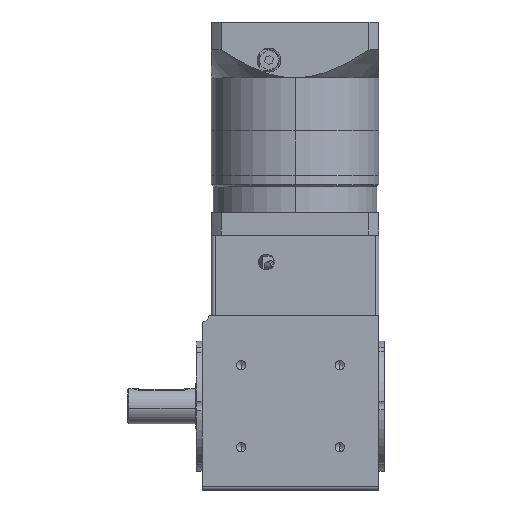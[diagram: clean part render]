
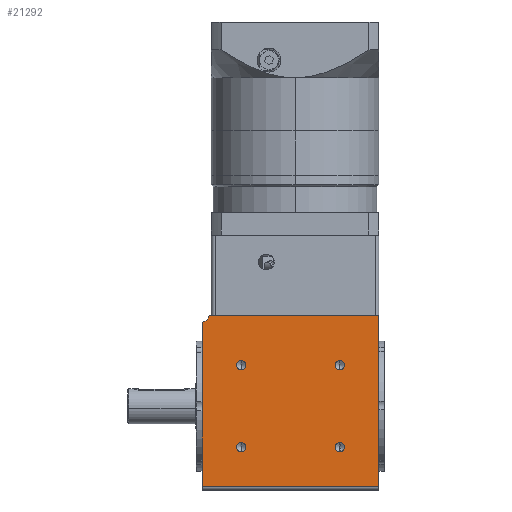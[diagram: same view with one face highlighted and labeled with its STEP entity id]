
A CAD part, front view. The second image highlights one B-rep face of the part: STEP entity #21292.
In plain terms, the highlighted planar face has unit normal (0, -1, 0).
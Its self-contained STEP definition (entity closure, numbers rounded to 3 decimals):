
#61 = DIRECTION ( 'NONE',  ( -1., 0., 0. ) ) ;
#575 = AXIS2_PLACEMENT_3D ( 'NONE', #32851, #3773, #18597 ) ;
#676 = EDGE_CURVE ( 'NONE', #976, #12260, #26913, .T. ) ;
#976 = VERTEX_POINT ( 'NONE', #26399 ) ;
#1504 = VERTEX_POINT ( 'NONE', #16917 ) ;
#1619 = PLANE ( 'NONE',  #26310 ) ;
#1771 = LINE ( 'NONE', #20975, #14430 ) ;
#2448 = EDGE_CURVE ( 'NONE', #19047, #27794, #8308, .T. ) ;
#2579 = CARTESIAN_POINT ( 'NONE',  ( 57.257, -60.486, 2. ) ) ;
#2626 = DIRECTION ( 'NONE',  ( 0., 0., 1. ) ) ;
#2868 = LINE ( 'NONE', #43273, #34642 ) ;
#3588 = AXIS2_PLACEMENT_3D ( 'NONE', #22269, #40814, #3878 ) ;
#3773 = DIRECTION ( 'NONE',  ( 0., -1., 0. ) ) ;
#3878 = DIRECTION ( 'NONE',  ( 0., 0., -1. ) ) ;
#4067 = FACE_BOUND ( 'NONE', #42248, .T. ) ;
#4576 = CARTESIAN_POINT ( 'NONE',  ( 36.257, -60.486, 25.5 ) ) ;
#4963 = CARTESIAN_POINT ( 'NONE',  ( 36.257, -60.486, 20.5 ) ) ;
#5456 = CARTESIAN_POINT ( 'NONE',  ( -37.743, -60.486, 94. ) ) ;
#5830 = VECTOR ( 'NONE', #61, 1000. ) ;
#6207 = EDGE_CURVE ( 'NONE', #29270, #44110, #1771, .T. ) ;
#6453 = VERTEX_POINT ( 'NONE', #23545 ) ;
#6981 = EDGE_LOOP ( 'NONE', ( #40696, #33236 ) ) ;
#7546 = FACE_OUTER_BOUND ( 'NONE', #27317, .T. ) ;
#8067 = DIRECTION ( 'NONE',  ( 0., 0., -1. ) ) ;
#8308 = CIRCLE ( 'NONE', #575, 2.5 ) ;
#8472 = EDGE_CURVE ( 'NONE', #1504, #25192, #17188, .T. ) ;
#8974 = VERTEX_POINT ( 'NONE', #9665 ) ;
#9044 = DIRECTION ( 'NONE',  ( 0., 0., 1. ) ) ;
#9418 = CIRCLE ( 'NONE', #12321, 2.5 ) ;
#9496 = CARTESIAN_POINT ( 'NONE',  ( 57.257, -60.486, 94. ) ) ;
#9497 = DIRECTION ( 'NONE',  ( 0., 1., 0. ) ) ;
#9665 = CARTESIAN_POINT ( 'NONE',  ( -37.743, -60.486, 2. ) ) ;
#9685 = DIRECTION ( 'NONE',  ( 1., 0., 0. ) ) ;
#11069 = ORIENTED_EDGE ( 'NONE', *, *, #14117, .F. ) ;
#11158 = VERTEX_POINT ( 'NONE', #2579 ) ;
#12200 = DIRECTION ( 'NONE',  ( 0., 0., -1. ) ) ;
#12260 = VERTEX_POINT ( 'NONE', #21375 ) ;
#12321 = AXIS2_PLACEMENT_3D ( 'NONE', #23047, #19156, #26605 ) ;
#13244 = DIRECTION ( 'NONE',  ( 0., -1., 0. ) ) ;
#13358 = DIRECTION ( 'NONE',  ( 0., 0., -1. ) ) ;
#13399 = CARTESIAN_POINT ( 'NONE',  ( -38.743, -60.486, 95. ) ) ;
#14010 = VECTOR ( 'NONE', #24155, 1000. ) ;
#14064 = LINE ( 'NONE', #46265, #14010 ) ;
#14117 = EDGE_CURVE ( 'NONE', #6453, #29270, #19651, .T. ) ;
#14201 = EDGE_CURVE ( 'NONE', #8974, #6453, #2868, .T. ) ;
#14430 = VECTOR ( 'NONE', #9685, 1000. ) ;
#14812 = CIRCLE ( 'NONE', #36050, 2.5 ) ;
#14896 = CARTESIAN_POINT ( 'NONE',  ( -37.743, -60.486, 2. ) ) ;
#15285 = CARTESIAN_POINT ( 'NONE',  ( 36.257, -60.486, 67. ) ) ;
#15371 = ORIENTED_EDGE ( 'NONE', *, *, #46244, .F. ) ;
#16917 = CARTESIAN_POINT ( 'NONE',  ( -16.743, -60.486, 20.5 ) ) ;
#17188 = CIRCLE ( 'NONE', #36056, 2.5 ) ;
#17669 = EDGE_LOOP ( 'NONE', ( #38867, #15371 ) ) ;
#18184 = AXIS2_PLACEMENT_3D ( 'NONE', #31817, #35504, #13358 ) ;
#18597 = DIRECTION ( 'NONE',  ( 0., 0., -1. ) ) ;
#18686 = EDGE_CURVE ( 'NONE', #11158, #8974, #27359, .T. ) ;
#18992 = EDGE_CURVE ( 'NONE', #28764, #31638, #46368, .T. ) ;
#19047 = VERTEX_POINT ( 'NONE', #47661 ) ;
#19156 = DIRECTION ( 'NONE',  ( 0., -1., 0. ) ) ;
#19640 = CARTESIAN_POINT ( 'NONE',  ( -16.743, -60.486, 67. ) ) ;
#19651 = CIRCLE ( 'NONE', #41490, 5. ) ;
#20331 = CIRCLE ( 'NONE', #18184, 2.5 ) ;
#20559 = ORIENTED_EDGE ( 'NONE', *, *, #44559, .F. ) ;
#20975 = CARTESIAN_POINT ( 'NONE',  ( -37.743, -60.486, 94. ) ) ;
#21292 = ADVANCED_FACE ( 'NONE', ( #7546, #41010, #44512, #24867, #4067 ), #1619, .F. ) ;
#21375 = CARTESIAN_POINT ( 'NONE',  ( 36.257, -60.486, 64.5 ) ) ;
#22141 = DIRECTION ( 'NONE',  ( 0., 0., -1. ) ) ;
#22269 = CARTESIAN_POINT ( 'NONE',  ( 36.257, -60.486, 67. ) ) ;
#23047 = CARTESIAN_POINT ( 'NONE',  ( -16.743, -60.486, 23. ) ) ;
#23462 = ORIENTED_EDGE ( 'NONE', *, *, #41432, .F. ) ;
#23545 = CARTESIAN_POINT ( 'NONE',  ( -37.743, -60.486, 90.101 ) ) ;
#23933 = AXIS2_PLACEMENT_3D ( 'NONE', #19640, #34673, #12200 ) ;
#24155 = DIRECTION ( 'NONE',  ( 0., 0., -1. ) ) ;
#24867 = FACE_BOUND ( 'NONE', #45981, .T. ) ;
#25047 = DIRECTION ( 'NONE',  ( 0., 0., -1. ) ) ;
#25192 = VERTEX_POINT ( 'NONE', #36005 ) ;
#25424 = ORIENTED_EDGE ( 'NONE', *, *, #14201, .F. ) ;
#26310 = AXIS2_PLACEMENT_3D ( 'NONE', #5456, #9497, #9044 ) ;
#26399 = CARTESIAN_POINT ( 'NONE',  ( 36.257, -60.486, 69.5 ) ) ;
#26605 = DIRECTION ( 'NONE',  ( 0., 0., -1. ) ) ;
#26913 = CIRCLE ( 'NONE', #3588, 2.5 ) ;
#27317 = EDGE_LOOP ( 'NONE', ( #31044, #20559, #38148, #11069, #25424 ) ) ;
#27359 = LINE ( 'NONE', #14896, #5830 ) ;
#27794 = VERTEX_POINT ( 'NONE', #40699 ) ;
#28764 = VERTEX_POINT ( 'NONE', #4963 ) ;
#29270 = VERTEX_POINT ( 'NONE', #45137 ) ;
#29287 = DIRECTION ( 'NONE',  ( 0., -1., 0. ) ) ;
#31044 = ORIENTED_EDGE ( 'NONE', *, *, #18686, .F. ) ;
#31638 = VERTEX_POINT ( 'NONE', #4576 ) ;
#31817 = CARTESIAN_POINT ( 'NONE',  ( 36.257, -60.486, 23. ) ) ;
#32851 = CARTESIAN_POINT ( 'NONE',  ( -16.743, -60.486, 67. ) ) ;
#33203 = ORIENTED_EDGE ( 'NONE', *, *, #676, .F. ) ;
#33236 = ORIENTED_EDGE ( 'NONE', *, *, #45704, .F. ) ;
#33899 = ORIENTED_EDGE ( 'NONE', *, *, #41368, .F. ) ;
#34642 = VECTOR ( 'NONE', #2626, 1000. ) ;
#34673 = DIRECTION ( 'NONE',  ( 0., -1., 0. ) ) ;
#35504 = DIRECTION ( 'NONE',  ( 0., -1., 0. ) ) ;
#36005 = CARTESIAN_POINT ( 'NONE',  ( -16.743, -60.486, 25.5 ) ) ;
#36050 = AXIS2_PLACEMENT_3D ( 'NONE', #15285, #41092, #8067 ) ;
#36056 = AXIS2_PLACEMENT_3D ( 'NONE', #36206, #29287, #22141 ) ;
#36182 = CIRCLE ( 'NONE', #23933, 2.5 ) ;
#36206 = CARTESIAN_POINT ( 'NONE',  ( -16.743, -60.486, 23. ) ) ;
#38148 = ORIENTED_EDGE ( 'NONE', *, *, #6207, .F. ) ;
#38210 = AXIS2_PLACEMENT_3D ( 'NONE', #47188, #43754, #25047 ) ;
#38867 = ORIENTED_EDGE ( 'NONE', *, *, #18992, .F. ) ;
#40696 = ORIENTED_EDGE ( 'NONE', *, *, #8472, .F. ) ;
#40699 = CARTESIAN_POINT ( 'NONE',  ( -16.743, -60.486, 64.5 ) ) ;
#40814 = DIRECTION ( 'NONE',  ( 0., -1., 0. ) ) ;
#41010 = FACE_BOUND ( 'NONE', #17669, .T. ) ;
#41092 = DIRECTION ( 'NONE',  ( 0., -1., 0. ) ) ;
#41368 = EDGE_CURVE ( 'NONE', #12260, #976, #14812, .T. ) ;
#41432 = EDGE_CURVE ( 'NONE', #27794, #19047, #36182, .T. ) ;
#41490 = AXIS2_PLACEMENT_3D ( 'NONE', #13399, #13244, #42785 ) ;
#42248 = EDGE_LOOP ( 'NONE', ( #23462, #44181 ) ) ;
#42785 = DIRECTION ( 'NONE',  ( 0., 0., -1. ) ) ;
#43273 = CARTESIAN_POINT ( 'NONE',  ( -37.743, -60.486, 94. ) ) ;
#43754 = DIRECTION ( 'NONE',  ( 0., -1., 0. ) ) ;
#44110 = VERTEX_POINT ( 'NONE', #9496 ) ;
#44181 = ORIENTED_EDGE ( 'NONE', *, *, #2448, .F. ) ;
#44512 = FACE_BOUND ( 'NONE', #6981, .T. ) ;
#44559 = EDGE_CURVE ( 'NONE', #44110, #11158, #14064, .T. ) ;
#45137 = CARTESIAN_POINT ( 'NONE',  ( -33.844, -60.486, 94. ) ) ;
#45704 = EDGE_CURVE ( 'NONE', #25192, #1504, #9418, .T. ) ;
#45981 = EDGE_LOOP ( 'NONE', ( #33899, #33203 ) ) ;
#46244 = EDGE_CURVE ( 'NONE', #31638, #28764, #20331, .T. ) ;
#46265 = CARTESIAN_POINT ( 'NONE',  ( 57.257, -60.486, 94. ) ) ;
#46368 = CIRCLE ( 'NONE', #38210, 2.5 ) ;
#47188 = CARTESIAN_POINT ( 'NONE',  ( 36.257, -60.486, 23. ) ) ;
#47661 = CARTESIAN_POINT ( 'NONE',  ( -16.743, -60.486, 69.5 ) ) ;
